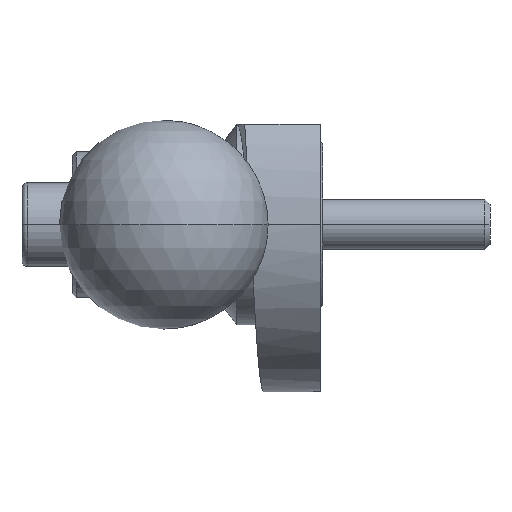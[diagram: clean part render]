
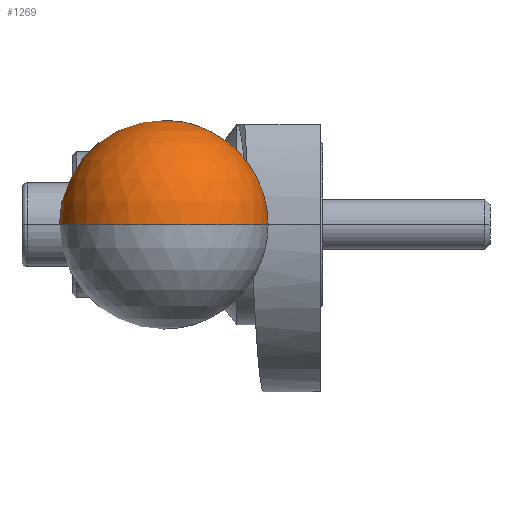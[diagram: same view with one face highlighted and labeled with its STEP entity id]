
A CAD part, left-side view. The second image highlights one B-rep face of the part: STEP entity #1269.
In plain terms, the highlighted spherical face has radius 12.5 mm.
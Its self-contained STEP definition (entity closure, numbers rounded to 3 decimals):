
#28 = EDGE_CURVE ( 'NONE', #1480, #819, #786, .T. ) ;
#38 = CARTESIAN_POINT ( 'NONE',  ( -87.5, 8.75, 0. ) ) ;
#141 = ORIENTED_EDGE ( 'NONE', *, *, #28, .F. ) ;
#168 = EDGE_CURVE ( 'NONE', #2012, #819, #1688, .T. ) ;
#247 = EDGE_CURVE ( 'NONE', #2012, #1480, #1380, .T. ) ;
#253 = ORIENTED_EDGE ( 'NONE', *, *, #247, .F. ) ;
#290 = AXIS2_PLACEMENT_3D ( 'NONE', #537, #1786, #1168 ) ;
#373 = DIRECTION ( 'NONE',  ( 0., -1., 0. ) ) ;
#537 = CARTESIAN_POINT ( 'NONE',  ( -77.5, 8.75, 0. ) ) ;
#589 = AXIS2_PLACEMENT_3D ( 'NONE', #1613, #1001, #1476 ) ;
#785 = ORIENTED_EDGE ( 'NONE', *, *, #168, .T. ) ;
#786 = CIRCLE ( 'NONE', #290, 7.5 ) ;
#793 = CARTESIAN_POINT ( 'NONE',  ( -77.5, 16.25, 0. ) ) ;
#819 = VERTEX_POINT ( 'NONE', #2044 ) ;
#837 = CARTESIAN_POINT ( 'NONE',  ( -100., 8.75, 0. ) ) ;
#1001 = DIRECTION ( 'NONE',  ( 0., 0., -1. ) ) ;
#1028 = DIRECTION ( 'NONE',  ( 0., 0., -1. ) ) ;
#1140 = DIRECTION ( 'NONE',  ( 1., 0., 0. ) ) ;
#1168 = DIRECTION ( 'NONE',  ( 0., 1., 0. ) ) ;
#1269 = ADVANCED_FACE ( 'NONE', ( #1981 ), #1950, .T. ) ;
#1284 = CARTESIAN_POINT ( 'NONE',  ( -87.5, 8.75, 0. ) ) ;
#1380 = CIRCLE ( 'NONE', #589, 12.5 ) ;
#1433 = DIRECTION ( 'NONE',  ( 0., 0., 1. ) ) ;
#1476 = DIRECTION ( 'NONE',  ( 0., 1., 0. ) ) ;
#1480 = VERTEX_POINT ( 'NONE', #793 ) ;
#1579 = AXIS2_PLACEMENT_3D ( 'NONE', #1284, #1433, #1140 ) ;
#1613 = CARTESIAN_POINT ( 'NONE',  ( -87.5, 8.75, 0. ) ) ;
#1624 = EDGE_LOOP ( 'NONE', ( #253, #785, #141 ) ) ;
#1688 = CIRCLE ( 'NONE', #1579, 12.5 ) ;
#1707 = AXIS2_PLACEMENT_3D ( 'NONE', #38, #1028, #373 ) ;
#1786 = DIRECTION ( 'NONE',  ( 1., 0., 0. ) ) ;
#1950 = SPHERICAL_SURFACE ( 'NONE', #1707, 12.5 ) ;
#1981 = FACE_OUTER_BOUND ( 'NONE', #1624, .T. ) ;
#2012 = VERTEX_POINT ( 'NONE', #837 ) ;
#2044 = CARTESIAN_POINT ( 'NONE',  ( -77.5, 1.25, 0. ) ) ;
